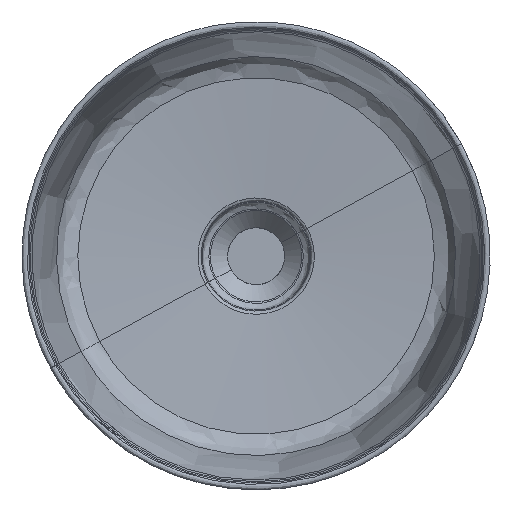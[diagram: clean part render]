
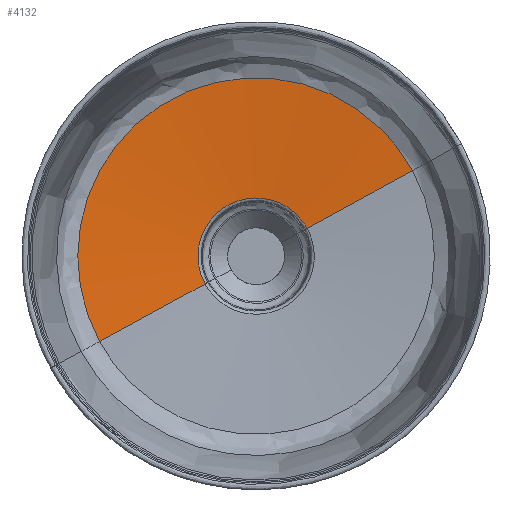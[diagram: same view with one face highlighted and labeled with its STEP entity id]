
A CAD part, top view. The second image highlights one B-rep face of the part: STEP entity #4132.
In plain terms, the highlighted free-form (B-spline) face has degree [1, 5] with [2, 15] control points.
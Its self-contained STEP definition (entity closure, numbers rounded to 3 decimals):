
#3868=CARTESIAN_POINT('Vertex',(-44.012,-24.044,63.602)) ;
#3870=CARTESIAN_POINT('Vertex',(44.012,24.044,63.602)) ;
#3988=CARTESIAN_POINT('Control Point',(-44.012,-24.044,63.602)) ;
#3989=CARTESIAN_POINT('Control Point',(-47.789,-17.13,63.602)) ;
#3990=CARTESIAN_POINT('Control Point',(-50.208,-9.475,63.602)) ;
#3991=CARTESIAN_POINT('Control Point',(-51.074,-1.434,63.602)) ;
#3992=CARTESIAN_POINT('Control Point',(-49.607,14.555,63.602)) ;
#3993=CARTESIAN_POINT('Control Point',(-42.203,28.802,63.602)) ;
#3994=CARTESIAN_POINT('Control Point',(-37.129,35.101,63.602)) ;
#3995=CARTESIAN_POINT('Control Point',(-24.785,45.369,63.602)) ;
#3996=CARTESIAN_POINT('Control Point',(-9.475,50.208,63.602)) ;
#3997=CARTESIAN_POINT('Control Point',(-1.434,51.074,63.602)) ;
#3998=CARTESIAN_POINT('Control Point',(14.555,49.607,63.602)) ;
#3999=CARTESIAN_POINT('Control Point',(28.802,42.203,63.602)) ;
#4000=CARTESIAN_POINT('Control Point',(35.101,37.129,63.602)) ;
#4001=CARTESIAN_POINT('Control Point',(40.235,30.957,63.602)) ;
#4002=CARTESIAN_POINT('Control Point',(44.012,24.044,63.602)) ;
#4043=CARTESIAN_POINT('Control Point',(44.012,24.044,63.602)) ;
#4044=CARTESIAN_POINT('Control Point',(134.927,73.711,71.675)) ;
#4045=CARTESIAN_POINT('Vertex',(134.927,73.711,71.675)) ;
#4064=CARTESIAN_POINT('Vertex',(-134.927,-73.711,71.675)) ;
#4068=CARTESIAN_POINT('Control Point',(-134.927,-73.711,71.675)) ;
#4069=CARTESIAN_POINT('Control Point',(-44.012,-24.044,63.602)) ;
#4079=CARTESIAN_POINT('Control Point',(44.012,24.044,63.602)) ;
#4080=CARTESIAN_POINT('Control Point',(40.235,30.957,63.602)) ;
#4081=CARTESIAN_POINT('Control Point',(35.101,37.129,63.602)) ;
#4082=CARTESIAN_POINT('Control Point',(28.802,42.203,63.602)) ;
#4083=CARTESIAN_POINT('Control Point',(14.555,49.606,63.602)) ;
#4084=CARTESIAN_POINT('Control Point',(-1.434,51.074,63.602)) ;
#4085=CARTESIAN_POINT('Control Point',(-9.476,50.208,63.602)) ;
#4086=CARTESIAN_POINT('Control Point',(-24.785,45.369,63.602)) ;
#4087=CARTESIAN_POINT('Control Point',(-37.129,35.101,63.602)) ;
#4088=CARTESIAN_POINT('Control Point',(-42.203,28.802,63.602)) ;
#4089=CARTESIAN_POINT('Control Point',(-49.606,14.555,63.602)) ;
#4090=CARTESIAN_POINT('Control Point',(-51.074,-1.434,63.602)) ;
#4091=CARTESIAN_POINT('Control Point',(-50.208,-9.476,63.602)) ;
#4092=CARTESIAN_POINT('Control Point',(-47.789,-17.13,63.602)) ;
#4093=CARTESIAN_POINT('Control Point',(-44.012,-24.044,63.602)) ;
#4094=CARTESIAN_POINT('Control Point',(134.927,73.711,71.675)) ;
#4095=CARTESIAN_POINT('Control Point',(123.349,94.906,71.675)) ;
#4096=CARTESIAN_POINT('Control Point',(107.61,113.827,71.675)) ;
#4097=CARTESIAN_POINT('Control Point',(88.3,129.382,71.675)) ;
#4098=CARTESIAN_POINT('Control Point',(44.621,152.079,71.675)) ;
#4099=CARTESIAN_POINT('Control Point',(-4.396,156.579,71.675)) ;
#4100=CARTESIAN_POINT('Control Point',(-29.05,153.924,71.675)) ;
#4101=CARTESIAN_POINT('Control Point',(-75.984,139.088,71.675)) ;
#4102=CARTESIAN_POINT('Control Point',(-113.827,107.61,71.675)) ;
#4103=CARTESIAN_POINT('Control Point',(-129.382,88.3,71.675)) ;
#4104=CARTESIAN_POINT('Control Point',(-152.079,44.621,71.675)) ;
#4105=CARTESIAN_POINT('Control Point',(-156.579,-4.396,71.675)) ;
#4106=CARTESIAN_POINT('Control Point',(-153.924,-29.049,71.675)) ;
#4107=CARTESIAN_POINT('Control Point',(-146.506,-52.517,71.675)) ;
#4108=CARTESIAN_POINT('Control Point',(-134.927,-73.711,71.675)) ;
#4110=CARTESIAN_POINT('Control Point',(-134.927,-73.711,71.675)) ;
#4111=CARTESIAN_POINT('Control Point',(-146.506,-52.517,71.675)) ;
#4112=CARTESIAN_POINT('Control Point',(-153.923,-29.049,71.675)) ;
#4113=CARTESIAN_POINT('Control Point',(-156.578,-4.396,71.675)) ;
#4114=CARTESIAN_POINT('Control Point',(-152.08,44.621,71.675)) ;
#4115=CARTESIAN_POINT('Control Point',(-129.381,88.299,71.675)) ;
#4116=CARTESIAN_POINT('Control Point',(-113.826,107.609,71.675)) ;
#4117=CARTESIAN_POINT('Control Point',(-75.985,139.089,71.675)) ;
#4118=CARTESIAN_POINT('Control Point',(-29.049,153.923,71.675)) ;
#4119=CARTESIAN_POINT('Control Point',(-4.396,156.578,71.675)) ;
#4120=CARTESIAN_POINT('Control Point',(44.621,152.08,71.675)) ;
#4121=CARTESIAN_POINT('Control Point',(88.299,129.381,71.675)) ;
#4122=CARTESIAN_POINT('Control Point',(107.609,113.826,71.675)) ;
#4123=CARTESIAN_POINT('Control Point',(123.349,94.906,71.675)) ;
#4124=CARTESIAN_POINT('Control Point',(134.927,73.711,71.675)) ;
#4127=ORIENTED_EDGE('',*,*,#4070,.T.) ;
#4128=ORIENTED_EDGE('',*,*,#4125,.F.) ;
#4129=ORIENTED_EDGE('',*,*,#4047,.T.) ;
#4130=ORIENTED_EDGE('',*,*,#4003,.T.) ;
#4132=ADVANCED_FACE('Superficie.113',(#4131),#4078,.F.) ;
#3987=B_SPLINE_CURVE_WITH_KNOTS('',5,(#3988,#3989,#3990,#3991,#3992,#3993,#3994,#3995,#3996,#3997,#3998,#3999,#4000,#4001,#4002),.UNSPECIFIED.,.F.,.U.,(6,3,3,3,6),(-75.445,-37.722,0.,37.722,75.445),.UNSPECIFIED.) ;
#4042=B_SPLINE_CURVE_WITH_KNOTS('',1,(#4043,#4044),.UNSPECIFIED.,.F.,.U.,(2,2),(-51.445,51.445),.UNSPECIFIED.) ;
#4067=B_SPLINE_CURVE_WITH_KNOTS('',1,(#4068,#4069),.UNSPECIFIED.,.F.,.U.,(2,2),(-51.445,51.445),.UNSPECIFIED.) ;
#4109=B_SPLINE_CURVE_WITH_KNOTS('',5,(#4110,#4111,#4112,#4113,#4114,#4115,#4116,#4117,#4118,#4119,#4120,#4121,#4122,#4123,#4124),.UNSPECIFIED.,.F.,.U.,(6,3,3,3,6),(-158.557,-79.279,0.,79.279,158.557),.UNSPECIFIED.) ;
#4078=B_SPLINE_SURFACE_WITH_KNOTS('',1,5,((#4079,#4080,#4081,#4082,#4083,#4084,#4085,#4086,#4087,#4088,#4089,#4090,#4091,#4092,#4093),(#4094,#4095,#4096,#4097,#4098,#4099,#4100,#4101,#4102,#4103,#4104,#4105,#4106,#4107,#4108)),.UNSPECIFIED.,.F.,.F.,.U.,(2,2),(6,3,3,3,6),(-51.445,51.445),(0.,79.279,158.557,237.836,317.114),.UNSPECIFIED.) ;
#4003=EDGE_CURVE('',#3871,#3869,#3987,.F.) ;
#4047=EDGE_CURVE('',#4046,#3871,#4042,.F.) ;
#4070=EDGE_CURVE('',#3869,#4065,#4067,.F.) ;
#4125=EDGE_CURVE('',#4046,#4065,#4109,.F.) ;
#4126=EDGE_LOOP('',(#4127,#4128,#4129,#4130)) ;
#4131=FACE_OUTER_BOUND('',#4126,.T.) ;
#3869=VERTEX_POINT('',#3868) ;
#3871=VERTEX_POINT('',#3870) ;
#4046=VERTEX_POINT('',#4045) ;
#4065=VERTEX_POINT('',#4064) ;
